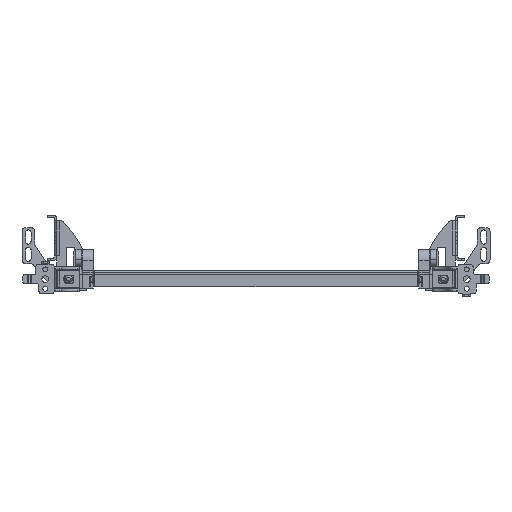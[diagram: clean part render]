
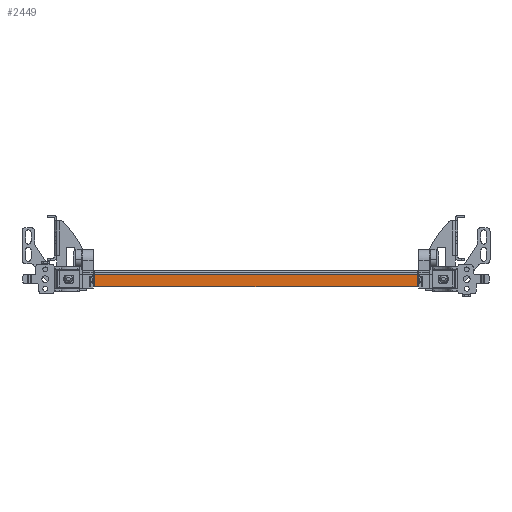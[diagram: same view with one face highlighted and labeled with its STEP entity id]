
A CAD part, front view. The second image highlights one B-rep face of the part: STEP entity #2449.
In plain terms, the highlighted planar face has unit normal (0, -1, 0).
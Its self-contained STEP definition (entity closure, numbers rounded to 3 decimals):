
#908 = CARTESIAN_POINT ( 'NONE',  ( 0., -1048., 0. ) ) ;
#1014 = DIRECTION ( 'NONE',  ( 0., 0., 1. ) ) ;
#1417 = DIRECTION ( 'NONE',  ( 0., 0., -1. ) ) ;
#1645 = ORIENTED_EDGE ( 'NONE', *, *, #18092, .T. ) ;
#2378 = VERTEX_POINT ( 'NONE', #6470 ) ;
#2449 = ADVANCED_FACE ( 'NONE', ( #20057 ), #11960, .F. ) ;
#2791 = LINE ( 'NONE', #20270, #8925 ) ;
#3807 = VERTEX_POINT ( 'NONE', #20333 ) ;
#4084 = LINE ( 'NONE', #13672, #8933 ) ;
#4283 = ORIENTED_EDGE ( 'NONE', *, *, #6406, .F. ) ;
#4607 = EDGE_CURVE ( 'NONE', #5689, #10780, #4084, .T. ) ;
#5689 = VERTEX_POINT ( 'NONE', #19595 ) ;
#5760 = DIRECTION ( 'NONE',  ( 1., 0., 0. ) ) ;
#6140 = AXIS2_PLACEMENT_3D ( 'NONE', #908, #16745, #1014 ) ;
#6406 = EDGE_CURVE ( 'NONE', #16679, #5689, #2791, .T. ) ;
#6470 = CARTESIAN_POINT ( 'NONE',  ( 205.5, -1048., -20. ) ) ;
#7840 = LINE ( 'NONE', #14173, #10544 ) ;
#8159 = ORIENTED_EDGE ( 'NONE', *, *, #16378, .F. ) ;
#8493 = DIRECTION ( 'NONE',  ( 0., 0., 1. ) ) ;
#8925 = VECTOR ( 'NONE', #18935, 1000. ) ;
#8933 = VECTOR ( 'NONE', #5760, 1000. ) ;
#9507 = ORIENTED_EDGE ( 'NONE', *, *, #11644, .F. ) ;
#9511 = ORIENTED_EDGE ( 'NONE', *, *, #10932, .T. ) ;
#9785 = ORIENTED_EDGE ( 'NONE', *, *, #4607, .F. ) ;
#10054 = CARTESIAN_POINT ( 'NONE',  ( -204.5, -1048., -20. ) ) ;
#10385 = CARTESIAN_POINT ( 'NONE',  ( -205.5, -1048., -20. ) ) ;
#10544 = VECTOR ( 'NONE', #17297, 1000. ) ;
#10726 = CARTESIAN_POINT ( 'NONE',  ( 205.5, -1048., -5. ) ) ;
#10780 = VERTEX_POINT ( 'NONE', #10726 ) ;
#10932 = EDGE_CURVE ( 'NONE', #16679, #3807, #16800, .T. ) ;
#11644 = EDGE_CURVE ( 'NONE', #12651, #3807, #7840, .T. ) ;
#11960 = PLANE ( 'NONE',  #6140 ) ;
#12214 = CIRCLE ( 'NONE', #15864, 1. ) ;
#12474 = CARTESIAN_POINT ( 'NONE',  ( 204.5, -1048., -20. ) ) ;
#12609 = EDGE_LOOP ( 'NONE', ( #4283, #9511, #9507, #1645, #8159, #9785 ) ) ;
#12651 = VERTEX_POINT ( 'NONE', #13565 ) ;
#13565 = CARTESIAN_POINT ( 'NONE',  ( 204.5, -1048., -21. ) ) ;
#13672 = CARTESIAN_POINT ( 'NONE',  ( 205.5, -1048., -5. ) ) ;
#14173 = CARTESIAN_POINT ( 'NONE',  ( 205.5, -1048., -21. ) ) ;
#14348 = VECTOR ( 'NONE', #1417, 1000. ) ;
#14832 = DIRECTION ( 'NONE',  ( 0., 0., 1. ) ) ;
#15487 = CARTESIAN_POINT ( 'NONE',  ( 205.5, -1048., -2.5 ) ) ;
#15696 = LINE ( 'NONE', #15487, #14348 ) ;
#15864 = AXIS2_PLACEMENT_3D ( 'NONE', #12474, #16292, #14832 ) ;
#16292 = DIRECTION ( 'NONE',  ( 0., -1., 0. ) ) ;
#16378 = EDGE_CURVE ( 'NONE', #10780, #2378, #15696, .T. ) ;
#16679 = VERTEX_POINT ( 'NONE', #10385 ) ;
#16745 = DIRECTION ( 'NONE',  ( 0., 1., 0. ) ) ;
#16800 = CIRCLE ( 'NONE', #19450, 1. ) ;
#17297 = DIRECTION ( 'NONE',  ( -1., 0., 0. ) ) ;
#18092 = EDGE_CURVE ( 'NONE', #12651, #2378, #12214, .T. ) ;
#18935 = DIRECTION ( 'NONE',  ( 0., 0., 1. ) ) ;
#19300 = DIRECTION ( 'NONE',  ( 0., -1., 0. ) ) ;
#19450 = AXIS2_PLACEMENT_3D ( 'NONE', #10054, #19300, #8493 ) ;
#19595 = CARTESIAN_POINT ( 'NONE',  ( -205.5, -1048., -5. ) ) ;
#20057 = FACE_OUTER_BOUND ( 'NONE', #12609, .T. ) ;
#20270 = CARTESIAN_POINT ( 'NONE',  ( -205.5, -1048., -21. ) ) ;
#20333 = CARTESIAN_POINT ( 'NONE',  ( -204.5, -1048., -21. ) ) ;
